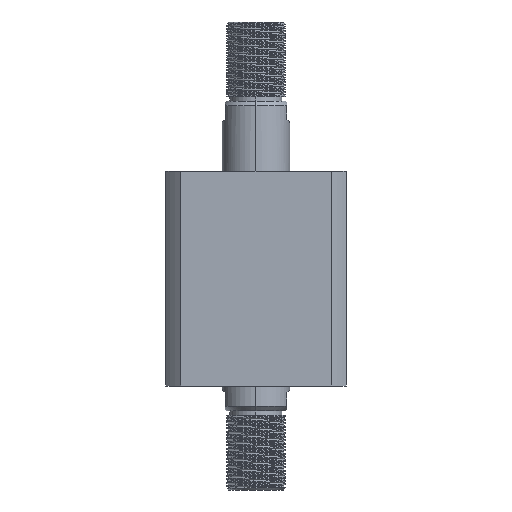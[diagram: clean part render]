
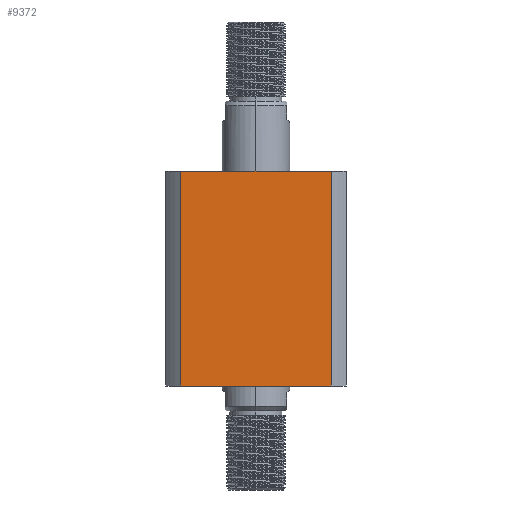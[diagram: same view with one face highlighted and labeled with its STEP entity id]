
A CAD part, left-side view. The second image highlights one B-rep face of the part: STEP entity #9372.
In plain terms, the highlighted planar face has unit normal (-1, 0, 0).
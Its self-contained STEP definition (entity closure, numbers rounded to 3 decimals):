
#33 = CARTESIAN_POINT ( 'NONE',  ( -40., -33.226, 47.5 ) ) ;
#451 = VERTEX_POINT ( 'NONE', #12888 ) ;
#617 = EDGE_CURVE ( 'NONE', #1634, #451, #5816, .T. ) ;
#855 = CARTESIAN_POINT ( 'NONE',  ( -40., 33.226, 47.5 ) ) ;
#856 = LINE ( 'NONE', #4104, #5154 ) ;
#1531 = EDGE_CURVE ( 'NONE', #1634, #1653, #3831, .T. ) ;
#1634 = VERTEX_POINT ( 'NONE', #14840 ) ;
#1653 = VERTEX_POINT ( 'NONE', #33 ) ;
#1700 = VECTOR ( 'NONE', #7886, 1000. ) ;
#2021 = DIRECTION ( 'NONE',  ( 0., -1., 0. ) ) ;
#2826 = VERTEX_POINT ( 'NONE', #16832 ) ;
#2954 = ORIENTED_EDGE ( 'NONE', *, *, #11402, .F. ) ;
#3025 = EDGE_LOOP ( 'NONE', ( #5376, #2954, #11522, #16198 ) ) ;
#3831 = LINE ( 'NONE', #855, #1700 ) ;
#4104 = CARTESIAN_POINT ( 'NONE',  ( -40., -33.226, 47.5 ) ) ;
#5154 = VECTOR ( 'NONE', #5442, 1000. ) ;
#5170 = FACE_OUTER_BOUND ( 'NONE', #3025, .T. ) ;
#5376 = ORIENTED_EDGE ( 'NONE', *, *, #15376, .T. ) ;
#5442 = DIRECTION ( 'NONE',  ( 0., 0., -1. ) ) ;
#5816 = LINE ( 'NONE', #8190, #8117 ) ;
#6765 = DIRECTION ( 'NONE',  ( 0., 1., 0. ) ) ;
#6766 = LINE ( 'NONE', #8397, #12658 ) ;
#7886 = DIRECTION ( 'NONE',  ( 0., -1., 0. ) ) ;
#8117 = VECTOR ( 'NONE', #10951, 1000. ) ;
#8190 = CARTESIAN_POINT ( 'NONE',  ( -40., 33.226, 47.5 ) ) ;
#8397 = CARTESIAN_POINT ( 'NONE',  ( -40., 33.226, -47.5 ) ) ;
#9372 = ADVANCED_FACE ( 'NONE', ( #5170 ), #10759, .F. ) ;
#10759 = PLANE ( 'NONE',  #12962 ) ;
#10951 = DIRECTION ( 'NONE',  ( 0., 0., -1. ) ) ;
#11402 = EDGE_CURVE ( 'NONE', #1653, #2826, #856, .T. ) ;
#11522 = ORIENTED_EDGE ( 'NONE', *, *, #1531, .F. ) ;
#12122 = DIRECTION ( 'NONE',  ( 1., 0., 0. ) ) ;
#12658 = VECTOR ( 'NONE', #2021, 1000. ) ;
#12888 = CARTESIAN_POINT ( 'NONE',  ( -40., 33.226, -47.5 ) ) ;
#12962 = AXIS2_PLACEMENT_3D ( 'NONE', #16282, #12122, #6765 ) ;
#14840 = CARTESIAN_POINT ( 'NONE',  ( -40., 33.226, 47.5 ) ) ;
#15376 = EDGE_CURVE ( 'NONE', #451, #2826, #6766, .T. ) ;
#16198 = ORIENTED_EDGE ( 'NONE', *, *, #617, .T. ) ;
#16282 = CARTESIAN_POINT ( 'NONE',  ( -40., 33.226, 47.5 ) ) ;
#16832 = CARTESIAN_POINT ( 'NONE',  ( -40., -33.226, -47.5 ) ) ;
